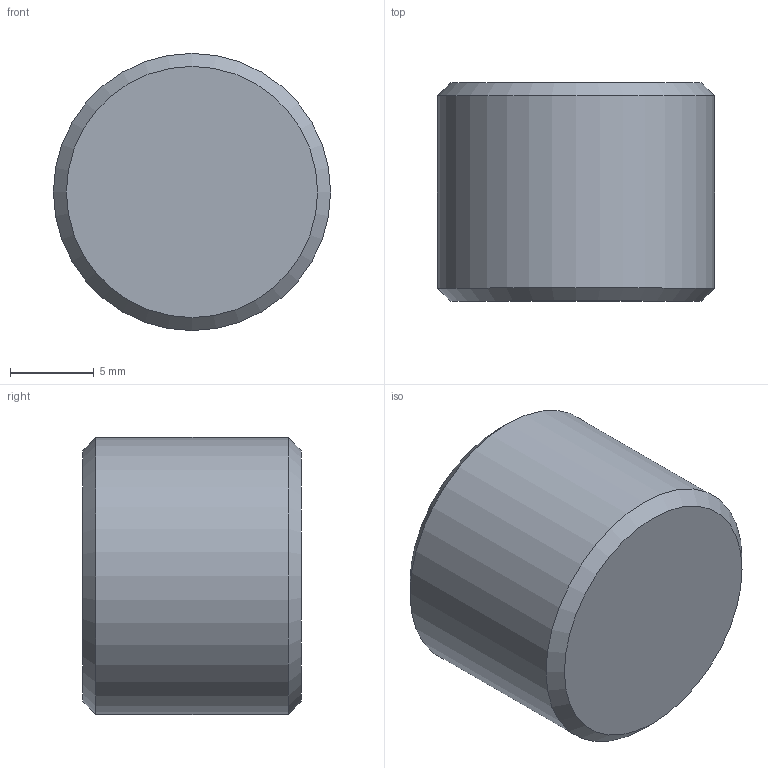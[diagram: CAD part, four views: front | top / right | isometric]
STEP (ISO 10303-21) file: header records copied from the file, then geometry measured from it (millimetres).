
FILE_DESCRIPTION(/* description */ (''),/* implementation_level */ '2;1');
FILE_NAME(/* name */ 'C:/Users/drich/Desktop/cad/Plugs/NPT Pipe Plugs/Heavy Duty/XTBF-38 v1.step',/* time_stamp */ '2020-01-10T11:43:42-06:00',/* author */ (''),/* organization */ (''),/* preprocessor_version */ 'ST-DEVELOPER v18',/* originating_system */ 'Autodesk Translation Framework v8.12.0.6',/* authorisation */ '');
FILE_SCHEMA (('CONFIG_CONTROL_DESIGN','AUTOMOTIVE_DESIGN { 1 0 10303 214 3 1 1 }'));
Length unit declared in the file: inch
Products named in the file (1): XTBF-38
Bounding box: 16.54 x 13.03 x 16.54 mm (x, y, z)
Volume: 2388.4 mm3; surface area: 1235.5 mm2
Topology: 1 solids, 1 shells, 13 faces, 35 edges, 25 vertices
Faces by surface type: plane 9, cone 3, cylinder 1
Full cylindrical faces by diameter (mm): 16.537 x1
Entity records: 446 total; most frequent: CARTESIAN_POINT 98, ORIENTED_EDGE 70, DIRECTION 58, EDGE_CURVE 35, VERTEX_POINT 25, AXIS2_PLACEMENT_3D 21, LINE 16, VECTOR 16
